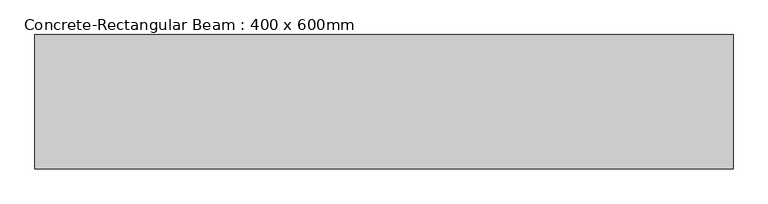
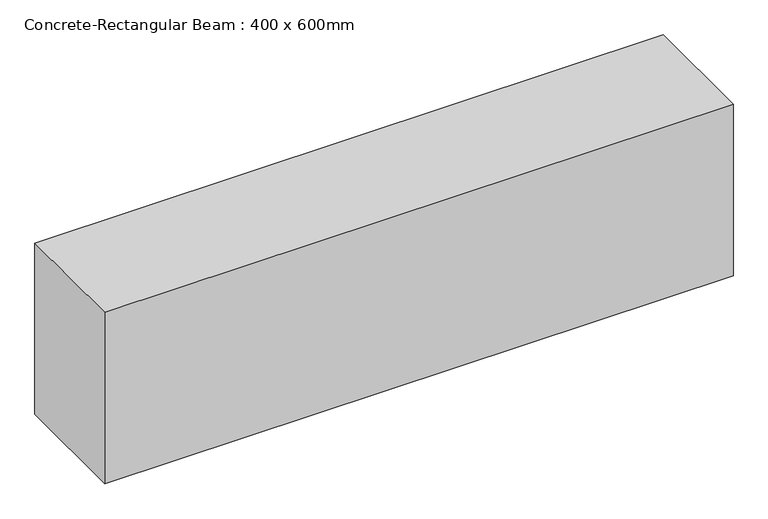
"""IFC4 building model written with IfcOpenShell, lengths in millimetres: beam geometry, Concrete-Rectangular Beam : 400 x 600mm."""

from ifc_helpers import new_model, si_unit, frame, origin, place, context, project, spatial, polyline, outline, extrude, source, transform, mapped, element, save


def concrete_rectangular_beam_400_x_600mm_1df2221c(model_context):
    return source(origin(), model_context, "Body", "SweptSolid", [
        extrude(outline(polyline([(1040.0, 199.9753906), (1040.0, -199.9753906), (-1040.0, -199.9753906), (-1040.0, 199.9753906), (1040.0, 199.9753906)])), frame((0.0, 0.0, -300.0), z_axis=(0.0, 0.0, 1.0), x_axis=(1.0, 0.0, 0.0)), (0.0, 0.0, 1.0), 600.0),
    ])


if __name__ == "__main__":
    model = new_model("IFC4")
    model_context = context("Model", 3, world=origin())
    ifc_project = project(units=[si_unit("LENGTHUNIT", "METRE", prefix="MILLI")], contexts=[model_context])
    site = spatial("IfcSite", under=ifc_project)
    building = spatial("IfcBuilding", under=site)
    placement = place(None, origin())
    concrete_rectangular_beam_400_x_600mm_shape = concrete_rectangular_beam_400_x_600mm_1df2221c(model_context)
    element("IfcBeam", 1, ObjectType="Concrete-Rectangular Beam : 400 x 600mm", at=placement, inside=building, context=model_context, shape_type="MappedRepresentation", body=[
        mapped(concrete_rectangular_beam_400_x_600mm_shape, transform((0.0, 0.0, 0.0), x_axis=(1.0, 0.0, 0.0), y_axis=(0.0, 1.0, 0.0), z_axis=(0.0, 0.0, 1.0))),
    ])
    save(model, "model.ifc")
